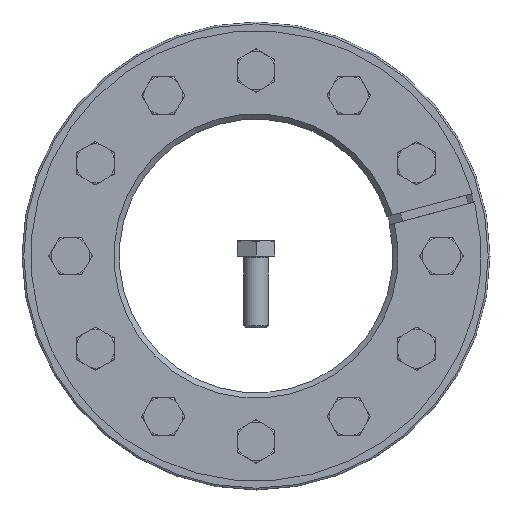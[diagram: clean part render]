
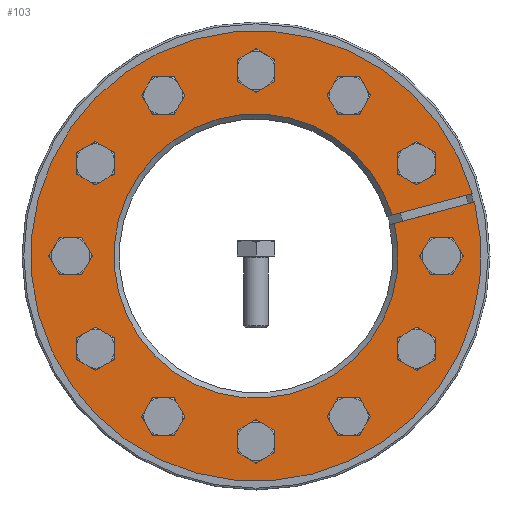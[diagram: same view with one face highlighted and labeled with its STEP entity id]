
A CAD part, front view. The second image highlights one B-rep face of the part: STEP entity #103.
In plain terms, the highlighted planar face has unit normal (0, -1, 0).
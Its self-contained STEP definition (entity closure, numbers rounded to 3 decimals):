
#103 = ADVANCED_FACE( '', ( #229, #230, #231, #232, #233, #234, #235, #236, #237, #238, #239, #240, #241 ), #242, .F. );
#229 = FACE_BOUND( '', #388, .T. );
#230 = FACE_BOUND( '', #389, .T. );
#231 = FACE_BOUND( '', #390, .T. );
#232 = FACE_BOUND( '', #391, .T. );
#233 = FACE_BOUND( '', #392, .T. );
#234 = FACE_BOUND( '', #393, .T. );
#235 = FACE_BOUND( '', #394, .T. );
#236 = FACE_BOUND( '', #395, .T. );
#237 = FACE_BOUND( '', #396, .T. );
#238 = FACE_BOUND( '', #397, .T. );
#239 = FACE_BOUND( '', #398, .T. );
#240 = FACE_BOUND( '', #399, .T. );
#241 = FACE_OUTER_BOUND( '', #400, .T. );
#242 = PLANE( '', #401 );
#388 = EDGE_LOOP( '', ( #651 ) );
#389 = EDGE_LOOP( '', ( #652 ) );
#390 = EDGE_LOOP( '', ( #653 ) );
#391 = EDGE_LOOP( '', ( #654 ) );
#392 = EDGE_LOOP( '', ( #655 ) );
#393 = EDGE_LOOP( '', ( #656 ) );
#394 = EDGE_LOOP( '', ( #657 ) );
#395 = EDGE_LOOP( '', ( #658 ) );
#396 = EDGE_LOOP( '', ( #659 ) );
#397 = EDGE_LOOP( '', ( #660 ) );
#398 = EDGE_LOOP( '', ( #661 ) );
#399 = EDGE_LOOP( '', ( #662 ) );
#400 = EDGE_LOOP( '', ( #663, #664, #665, #666 ) );
#401 = AXIS2_PLACEMENT_3D( '', #667, #668, #669 );
#651 = ORIENTED_EDGE( '', *, *, #844, .T. );
#652 = ORIENTED_EDGE( '', *, *, #845, .T. );
#653 = ORIENTED_EDGE( '', *, *, #846, .T. );
#654 = ORIENTED_EDGE( '', *, *, #847, .T. );
#655 = ORIENTED_EDGE( '', *, *, #848, .T. );
#656 = ORIENTED_EDGE( '', *, *, #797, .T. );
#657 = ORIENTED_EDGE( '', *, *, #849, .T. );
#658 = ORIENTED_EDGE( '', *, *, #817, .T. );
#659 = ORIENTED_EDGE( '', *, *, #826, .T. );
#660 = ORIENTED_EDGE( '', *, *, #794, .T. );
#661 = ORIENTED_EDGE( '', *, *, #775, .T. );
#662 = ORIENTED_EDGE( '', *, *, #850, .T. );
#663 = ORIENTED_EDGE( '', *, *, #841, .T. );
#664 = ORIENTED_EDGE( '', *, *, #799, .T. );
#665 = ORIENTED_EDGE( '', *, *, #791, .F. );
#666 = ORIENTED_EDGE( '', *, *, #779, .T. );
#667 = CARTESIAN_POINT( '', ( 0., 0., 132.5 ) );
#668 = DIRECTION( '', ( 0., 1., 0. ) );
#669 = DIRECTION( '', ( 0., 0., 1. ) );
#775 = EDGE_CURVE( '', #910, #910, #911, .T. );
#779 = EDGE_CURVE( '', #918, #916, #919, .T. );
#791 = EDGE_CURVE( '', #918, #922, #940, .T. );
#794 = EDGE_CURVE( '', #944, #944, #945, .T. );
#797 = EDGE_CURVE( '', #949, #949, #950, .T. );
#799 = EDGE_CURVE( '', #952, #922, #953, .T. );
#817 = EDGE_CURVE( '', #984, #984, #985, .T. );
#826 = EDGE_CURVE( '', #997, #997, #998, .T. );
#841 = EDGE_CURVE( '', #916, #952, #1017, .T. );
#844 = EDGE_CURVE( '', #1020, #1020, #1021, .T. );
#845 = EDGE_CURVE( '', #1022, #1022, #1023, .T. );
#846 = EDGE_CURVE( '', #1024, #1024, #1025, .T. );
#847 = EDGE_CURVE( '', #1026, #1026, #1027, .T. );
#848 = EDGE_CURVE( '', #1028, #1028, #1029, .T. );
#849 = EDGE_CURVE( '', #1030, #1030, #1031, .T. );
#850 = EDGE_CURVE( '', #1032, #1032, #1033, .T. );
#910 = VERTEX_POINT( '', #1199 );
#911 = CIRCLE( '', #1200, 7. );
#916 = VERTEX_POINT( '', #1205 );
#918 = VERTEX_POINT( '', #1210 );
#919 = CIRCLE( '', #1211, 127.5 );
#922 = VERTEX_POINT( '', #1217 );
#940 = LINE( '', #1248, #1249 );
#944 = VERTEX_POINT( '', #1253 );
#945 = CIRCLE( '', #1254, 7. );
#949 = VERTEX_POINT( '', #1258 );
#950 = CIRCLE( '', #1259, 7. );
#952 = VERTEX_POINT( '', #1261 );
#953 = CIRCLE( '', #1262, 80.5 );
#984 = VERTEX_POINT( '', #1298 );
#985 = CIRCLE( '', #1299, 7. );
#997 = VERTEX_POINT( '', #1315 );
#998 = CIRCLE( '', #1316, 7. );
#1017 = LINE( '', #1340, #1341 );
#1020 = VERTEX_POINT( '', #1347 );
#1021 = CIRCLE( '', #1348, 7. );
#1022 = VERTEX_POINT( '', #1349 );
#1023 = CIRCLE( '', #1350, 7. );
#1024 = VERTEX_POINT( '', #1351 );
#1025 = CIRCLE( '', #1352, 7. );
#1026 = VERTEX_POINT( '', #1353 );
#1027 = CIRCLE( '', #1354, 7. );
#1028 = VERTEX_POINT( '', #1355 );
#1029 = CIRCLE( '', #1356, 7. );
#1030 = VERTEX_POINT( '', #1357 );
#1031 = CIRCLE( '', #1358, 7. );
#1032 = VERTEX_POINT( '', #1359 );
#1033 = CIRCLE( '', #1360, 7. );
#1199 = CARTESIAN_POINT( '', ( -58.562, 0., -87.433 ) );
#1200 = AXIS2_PLACEMENT_3D( '', #1418, #1419, #1420 );
#1205 = CARTESIAN_POINT( '', ( 123.779, 0., 30.578 ) );
#1210 = CARTESIAN_POINT( '', ( 122.485, 0., 35.408 ) );
#1211 = AXIS2_PLACEMENT_3D( '', #1424, #1425, #1426 );
#1217 = CARTESIAN_POINT( '', ( 77.072, 0., 23.24 ) );
#1248 = CARTESIAN_POINT( '', ( 122.508, 0., 35.414 ) );
#1249 = VECTOR( '', #1434, 1000. );
#1253 = CARTESIAN_POINT( '', ( -105., 0., 7. ) );
#1254 = AXIS2_PLACEMENT_3D( '', #1438, #1439, #1440 );
#1258 = CARTESIAN_POINT( '', ( 94.433, 0., 46.438 ) );
#1259 = AXIS2_PLACEMENT_3D( '', #1444, #1445, #1446 );
#1261 = CARTESIAN_POINT( '', ( 78.367, 0., 18.41 ) );
#1262 = AXIS2_PLACEMENT_3D( '', #1447, #1448, #1449 );
#1298 = CARTESIAN_POINT( '', ( 58.562, 0., 87.433 ) );
#1299 = AXIS2_PLACEMENT_3D( '', #1488, #1489, #1490 );
#1315 = CARTESIAN_POINT( '', ( -46.438, 0., 94.433 ) );
#1316 = AXIS2_PLACEMENT_3D( '', #1498, #1499, #1500 );
#1340 = CARTESIAN_POINT( '', ( 123.803, 0., 30.585 ) );
#1341 = VECTOR( '', #1515, 1000. );
#1347 = CARTESIAN_POINT( '', ( 87.433, 0., -58.562 ) );
#1348 = AXIS2_PLACEMENT_3D( '', #1516, #1517, #1518 );
#1349 = CARTESIAN_POINT( '', ( -7., 0., -105. ) );
#1350 = AXIS2_PLACEMENT_3D( '', #1519, #1520, #1521 );
#1351 = CARTESIAN_POINT( '', ( -94.433, 0., -46.438 ) );
#1352 = AXIS2_PLACEMENT_3D( '', #1522, #1523, #1524 );
#1353 = CARTESIAN_POINT( '', ( -87.433, 0., 58.562 ) );
#1354 = AXIS2_PLACEMENT_3D( '', #1525, #1526, #1527 );
#1355 = CARTESIAN_POINT( '', ( 7., 0., 105. ) );
#1356 = AXIS2_PLACEMENT_3D( '', #1528, #1529, #1530 );
#1357 = CARTESIAN_POINT( '', ( 105., 0., -7. ) );
#1358 = AXIS2_PLACEMENT_3D( '', #1531, #1532, #1533 );
#1359 = CARTESIAN_POINT( '', ( 46.438, 0., -94.433 ) );
#1360 = AXIS2_PLACEMENT_3D( '', #1534, #1535, #1536 );
#1418 = CARTESIAN_POINT( '', ( -52.5, 0., -90.933 ) );
#1419 = DIRECTION( '', ( 0., 1., 0. ) );
#1420 = DIRECTION( '', ( -0.866, 0., 0.5 ) );
#1424 = CARTESIAN_POINT( '', ( 0., 0., 0. ) );
#1425 = DIRECTION( '', ( 0., -1., 0. ) );
#1426 = DIRECTION( '', ( 0., 0., -1. ) );
#1434 = DIRECTION( '', ( -0.966, 0., -0.259 ) );
#1438 = CARTESIAN_POINT( '', ( -105., 0., 0. ) );
#1439 = DIRECTION( '', ( 0., 1., 0. ) );
#1440 = DIRECTION( '', ( 0., 0., 1. ) );
#1444 = CARTESIAN_POINT( '', ( 90.933, 0., 52.5 ) );
#1445 = DIRECTION( '', ( 0., 1., 0. ) );
#1446 = DIRECTION( '', ( 0.5, 0., -0.866 ) );
#1447 = CARTESIAN_POINT( '', ( 0., 0., 0. ) );
#1448 = DIRECTION( '', ( 0., 1., 0. ) );
#1449 = DIRECTION( '', ( 0., 0., 1. ) );
#1488 = CARTESIAN_POINT( '', ( 52.5, 0., 90.933 ) );
#1489 = DIRECTION( '', ( 0., 1., 0. ) );
#1490 = DIRECTION( '', ( 0.866, 0., -0.5 ) );
#1498 = CARTESIAN_POINT( '', ( -52.5, 0., 90.933 ) );
#1499 = DIRECTION( '', ( 0., 1., 0. ) );
#1500 = DIRECTION( '', ( 0.866, 0., 0.5 ) );
#1515 = DIRECTION( '', ( -0.966, 0., -0.259 ) );
#1516 = CARTESIAN_POINT( '', ( 90.933, 0., -52.5 ) );
#1517 = DIRECTION( '', ( 0., 1., 0. ) );
#1518 = DIRECTION( '', ( -0.5, 0., -0.866 ) );
#1519 = CARTESIAN_POINT( '', ( 0., 0., -105. ) );
#1520 = DIRECTION( '', ( 0., 1., 0. ) );
#1521 = DIRECTION( '', ( -1., 0., 0. ) );
#1522 = CARTESIAN_POINT( '', ( -90.933, 0., -52.5 ) );
#1523 = DIRECTION( '', ( 0., 1., 0. ) );
#1524 = DIRECTION( '', ( -0.5, 0., 0.866 ) );
#1525 = CARTESIAN_POINT( '', ( -90.933, 0., 52.5 ) );
#1526 = DIRECTION( '', ( 0., 1., 0. ) );
#1527 = DIRECTION( '', ( 0.5, 0., 0.866 ) );
#1528 = CARTESIAN_POINT( '', ( 0., 0., 105. ) );
#1529 = DIRECTION( '', ( 0., 1., 0. ) );
#1530 = DIRECTION( '', ( 1., 0., 0. ) );
#1531 = CARTESIAN_POINT( '', ( 105., 0., 0. ) );
#1532 = DIRECTION( '', ( 0., 1., 0. ) );
#1533 = DIRECTION( '', ( 0., 0., -1. ) );
#1534 = CARTESIAN_POINT( '', ( 52.5, 0., -90.933 ) );
#1535 = DIRECTION( '', ( 0., 1., 0. ) );
#1536 = DIRECTION( '', ( -0.866, 0., -0.5 ) );
